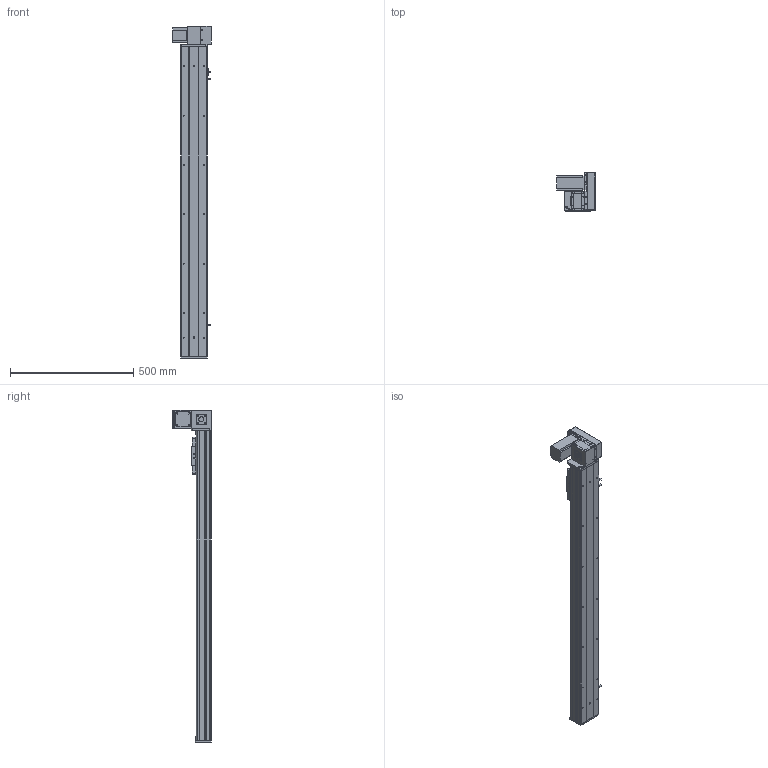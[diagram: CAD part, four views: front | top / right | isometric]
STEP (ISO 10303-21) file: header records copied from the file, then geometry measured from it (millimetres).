
FILE_DESCRIPTION (( 'STEP AP203' ), '1' );
FILE_NAME ('Y10CB-D90-S1000-UR-P400W.STEP', '2020-02-16T03:31:15', ( '微软用户' ), ( '微软中国' ), 'SwSTEP 2.0', 'SolidWorks 2017', '' );
FILE_SCHEMA (( 'CONFIG_CONTROL_DESIGN' ));
Length unit declared in the file: millimetre
Products named in the file (18): 10CB9-掛极; Y10B-々湍喘謫眊楊擘啣--; 10CB-耜裔; 0B-萇儂楊擘啣; Y135C-陔俋离換覜結え-; san松下电机400不带刹车----; Y100-135俋离換覜ん--; 0B-源倛裔啣; Y10B--々湍喘謫眊--666; 0B-埴倛裔啣; Y10B-耜蚾蟀諉啣----; 10CB-詩湍-; 00B-俋欶BM--; Y10CB- 掛极耜裔啣-毀---; 0CB-雄赽釱---; Y10CB-D90-S1000-UR-P400W; Y10C---詩湍揤啣; 0Cb-俋欶---
Assembly tree (21 placements, depth 2):
  Y10CB-D90-S1000-UR-P400W
    0CB-雄赽釱---
    0Cb-俋欶---
    Y10B-々湍喘謫眊楊擘啣--
    0B-萇儂楊擘啣
    san松下电机400不带刹车----
    0B-源倛裔啣
    0B-埴倛裔啣
    10CB-詩湍-
    Y10CB- 掛极耜裔啣-毀---  x2
    Y10C---詩湍揤啣  x2
    10CB9-掛极
    10CB-耜裔
    Y135C-陔俋离換覜結え-
    Y100-135俋离換覜ん--  x3
    Y10B--々湍喘謫眊--666
    Y10B-耜蚾蟀諉啣----
    00B-俋欶BM--
Bounding box: 157 x 155.5 x 1346 mm (x, y, z)
Volume: 3135871.6 mm3; surface area: 1411569.5 mm2
Topology: 21 solids, 21 shells, 990 faces, 2643 edges, 1730 vertices
Faces by surface type: cylinder 489, plane 477, cone 24
Entity records: 30912 total; most frequent: CARTESIAN_POINT 5469, DIRECTION 4998, ORIENTED_EDGE 4756, EDGE_CURVE 2378, AXIS2_PLACEMENT_3D 1789, VERTEX_POINT 1556, LINE 1420, VECTOR 1420
